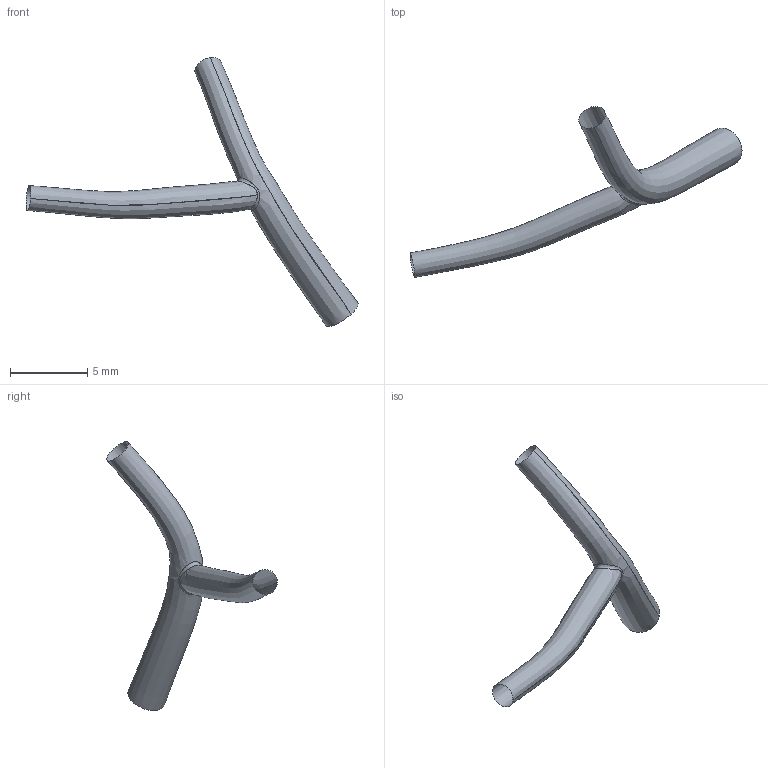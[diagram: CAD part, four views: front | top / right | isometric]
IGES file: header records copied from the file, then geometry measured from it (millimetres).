
Global section: file name: C:\Documents and Settings\Administrator\Desktop\FDA Bifurcation win\RawData_for_IGES\HRCA_Data\20030611.195803\IGES\20030611.195803.PDA.BIFUR.ES.igs; native system: Rhinoceros ( May 19 2006 ); preprocessor: Trout Lake IGES 012 May 19 2006; date: 100728.223224; units: centimetre
Bounding box: 21.52 x 11.07 x 17.43 mm (x, y, z)
Surface area: 220 mm2 (no closed solid volume)
Topology: 0 solids, 0 shells, 3 faces, 37 edges, 32 vertices
Faces by surface type: bspline 3
